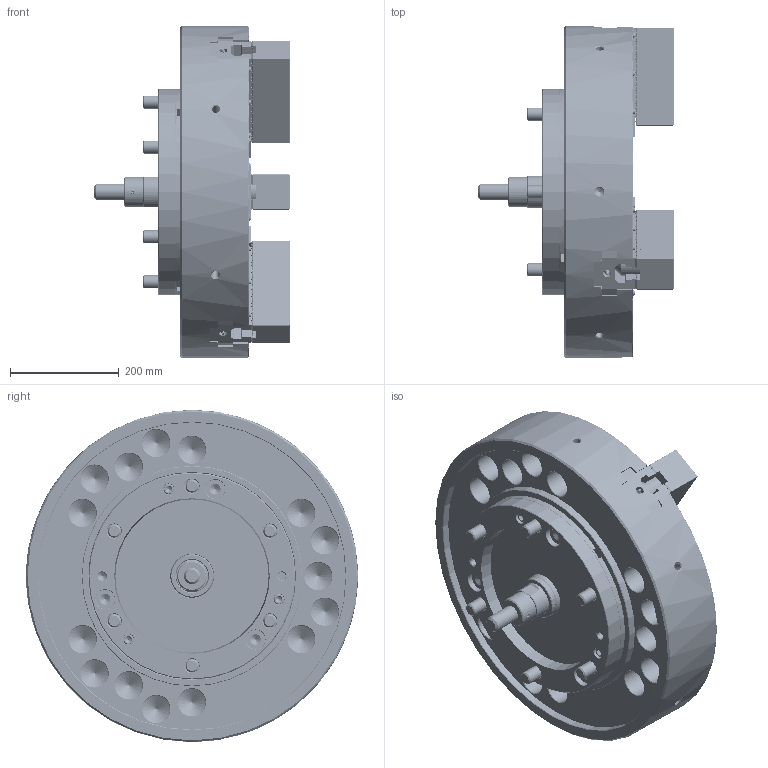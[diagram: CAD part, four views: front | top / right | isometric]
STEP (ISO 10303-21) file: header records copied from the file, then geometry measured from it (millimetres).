
FILE_DESCRIPTION (( 'STEP AP214' ), '1' );
FILE_NAME ('DT1_NV24C15_OUTSIDE_VIEW_HUL.STEP', '2026-03-24T05:00:06', ( '' ), ( '' ), 'SwSTEP 2.0', 'SolidWorks 2022', '' );
FILE_SCHEMA (( 'AUTOMOTIVE_DESIGN' ));
Length unit declared in the file: millimetre
Products named in the file (18): Copy of 61P321208^DT1_NV24C1500; DT1_NV24C15_BP^DT1_NV24C1500; DT1_NV24C15_COVER^DT1_NV24C1500; DT1_NV24C15_M6x12^DT1_NV24C1500; DT1_NV24C15_DRAWSCREW^DT1_NV24C1500; DT1_NV24C15_SOFTJAW^DT1_NV24C1500; DT1_NV24C15_S39^DT1_NV24C1500_円筒用; DT1_NV24C15_TNUT^DT1_NV24C1500; DT1_NV24C15_ORING^DT1_NV24C1500; DT1_NV24C15_M12x55^DT1_NV24C1500; DT1_NV24C15_M24x160^DT1_NV24C1500; DT1_NV24C15_CAP^DT1_NV24C1500; DT1_NV24C15_BASE^DT1_NV24C1500; DT1_NV24C15_OUTSIDE_VIEW_HUL; DT1_NV24C15_M20x60^DT1_NV24C1500; DT1_NV24C15_P80^DT1_NV24C1500_円筒用; DT1_NV24C15_DN^DT1_NV24C1500; DT1_NV24C15_COVERFOOTER^DT1_NV24C1500
Assembly tree (48 placements, depth 2):
  DT1_NV24C15_OUTSIDE_VIEW_HUL
    DT1_NV24C15_SOFTJAW^DT1_NV24C1500  x3
    DT1_NV24C15_TNUT^DT1_NV24C1500  x6
    DT1_NV24C15_COVER^DT1_NV24C1500
    DT1_NV24C15_DRAWSCREW^DT1_NV24C1500
    Copy of 61P321208^DT1_NV24C1500
    DT1_NV24C15_COVERFOOTER^DT1_NV24C1500
    DT1_NV24C15_M6x12^DT1_NV24C1500  x6
    DT1_NV24C15_M12x55^DT1_NV24C1500  x3
    DT1_NV24C15_M20x60^DT1_NV24C1500  x6
    DT1_NV24C15_M24x160^DT1_NV24C1500  x6
    DT1_NV24C15_S39^DT1_NV24C1500_円筒用
    DT1_NV24C15_P80^DT1_NV24C1500_円筒用
    DT1_NV24C15_CAP^DT1_NV24C1500  x6
    DT1_NV24C15_ORING^DT1_NV24C1500  x3
    DT1_NV24C15_DN^DT1_NV24C1500
    DT1_NV24C15_BP^DT1_NV24C1500
    DT1_NV24C15_BASE^DT1_NV24C1500
Bounding box: 358.56 x 610 x 610 mm (x, y, z)
Volume: 37253409.3 mm3; surface area: 2403137.6 mm2
Topology: 48 solids, 102 shells, 9641 faces, 26777 edges, 17435 vertices
Faces by surface type: plane 5626, cylinder 1906, bspline 1005, cone 962, torus 136, sphere 6
Entity records: 274062 total; most frequent: CARTESIAN_POINT 87285, ORIENTED_EDGE 41738, DIRECTION 33584, EDGE_CURVE 20869, VECTOR 14564, LINE 14564, VERTEX_POINT 13689, AXIS2_PLACEMENT_3D 9510
